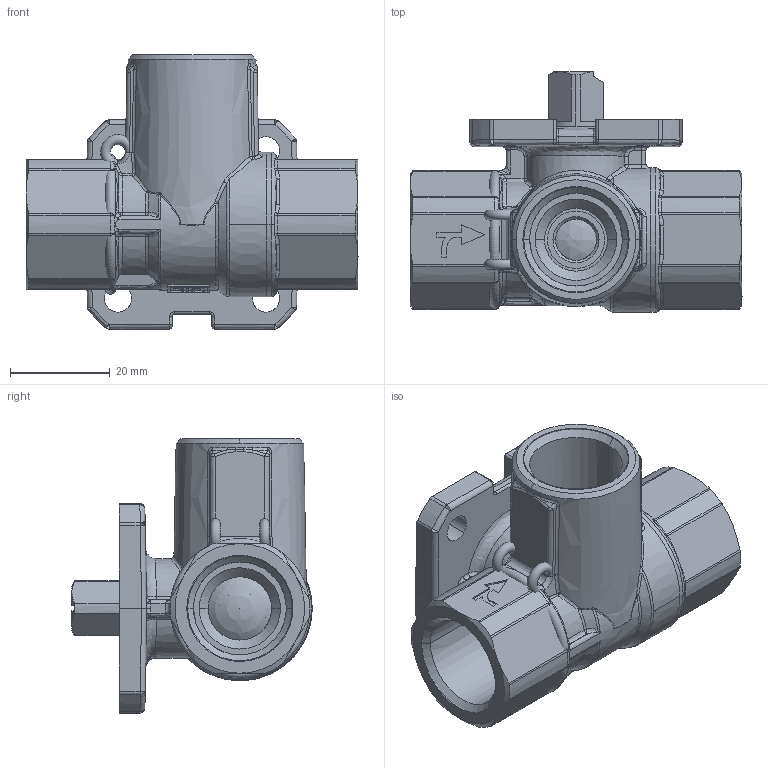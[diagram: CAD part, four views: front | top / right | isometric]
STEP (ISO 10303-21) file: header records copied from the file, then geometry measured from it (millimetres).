
FILE_DESCRIPTION((''),'2;1');
FILE_NAME('H980TX013_1369_ASM','2010-04-12T',('62marco'),(''),'PRO/ENGINEER BY PARAMETRIC TECHNOLOGY CORPORATION, 2008170','PRO/ENGINEER BY PARAMETRIC TECHNOLOGY CORPORATION, 2008170','');
FILE_SCHEMA(('CONFIG_CONTROL_DESIGN'));
Products named in the file (8): CC980T013_1219_SAUTER; CXP980013_92; CXKBTX013_1163; CXH98M013_155; CM98GF013_1176; CINBSX013_155; CINBS2013_155_N; H980TX013_1369_ASM
Assembly tree (8 placements, depth 2):
  H980TX013_1369_ASM
    CC980T013_1219_SAUTER
    CXP980013_92
    CXKBTX013_1163
    CXH98M013_155  x2
    CM98GF013_1176
    CINBSX013_155
    CINBS2013_155_N
Bounding box: 66.6 x 48.2 x 55 mm (x, y, z)
Surface area: 42343.6 mm2 (no closed solid volume)
Topology: 0 solids, 0 shells, 1297 faces, 6611 edges, 6543 vertices
Faces by surface type: bspline 1182, torus 86, sphere 29
Entity records: 114261 total; most frequent: CARTESIAN_POINT 58798, DIRECTION 8319, TRIMMED_CURVE 7227, VECTOR 6393, LINE 6393, DEFINITIONAL_REPRESENTATION 6376, PCURVE 6376, COMPOSITE_CURVE_SEGMENT 6376
